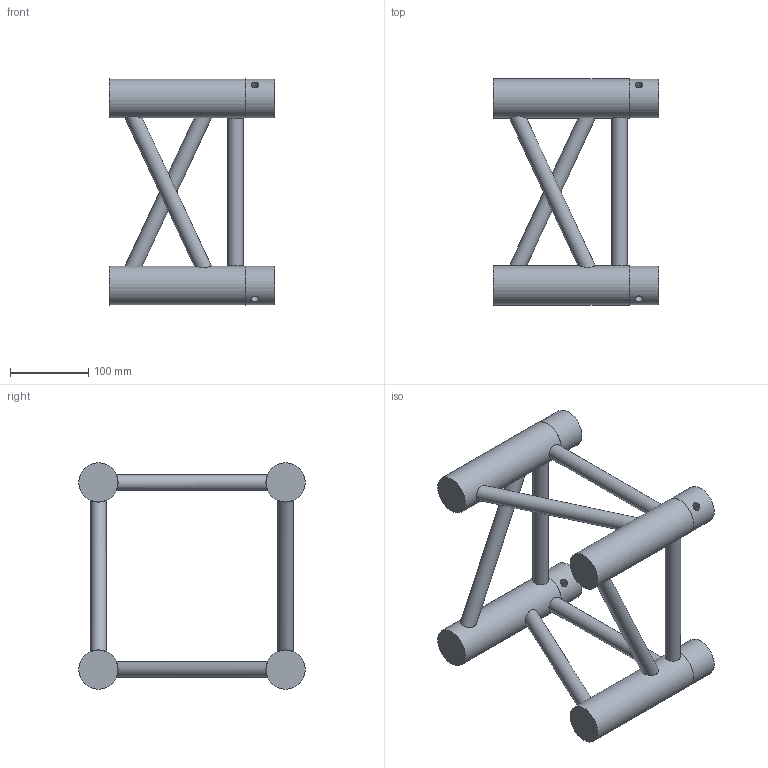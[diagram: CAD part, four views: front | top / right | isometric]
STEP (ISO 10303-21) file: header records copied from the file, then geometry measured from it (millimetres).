
FILE_DESCRIPTION(/* description */ (''),/* implementation_level */ '2;1');
FILE_NAME(/* name */ 'M:\Symbolen_NIEUW\STP\Boxcorner\111130017.stp',/* time_stamp */ '2015-06-22T13:20:22+02:00',/* author */ ('Sietse'),/* organization */ (''),/* preprocessor_version */ 'ST-DEVELOPER v15.6',/* originating_system */ 'Autodesk Inventor 2015',/* authorisation */ '');
FILE_SCHEMA (('AUTOMOTIVE_DESIGN { 1 0 10303 214 3 1 1 }'));
Length unit declared in the file: millimetre
Products named in the file (1): 160024551
Bounding box: 211 x 288.81 x 288.81 mm (x, y, z)
Volume: 1741635.2 mm3; surface area: 259402.1 mm2
Topology: 9 solids, 12 shells, 56 faces, 96 edges, 64 vertices
Faces by surface type: plane 28, cylinder 28
Full cylindrical faces by diameter (mm): 10 x4, 20 x8, 49.5 x4, 50 x4
Entity records: 1707 total; most frequent: CARTESIAN_POINT 721, DIRECTION 170, ORIENTED_EDGE 144, EDGE_LOOP 96, AXIS2_PLACEMENT_3D 81, EDGE_CURVE 64, VERTEX_POINT 56, STYLED_ITEM 49
